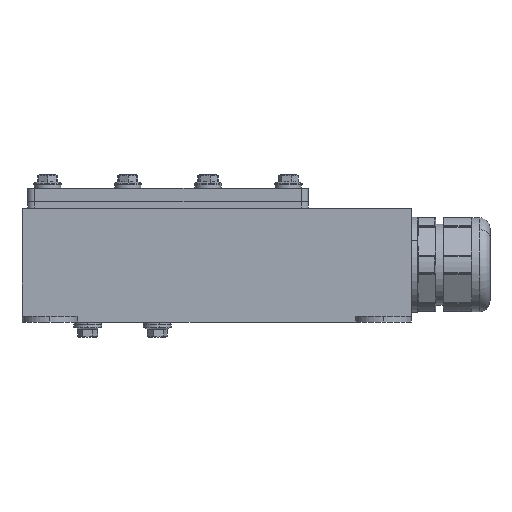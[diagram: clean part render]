
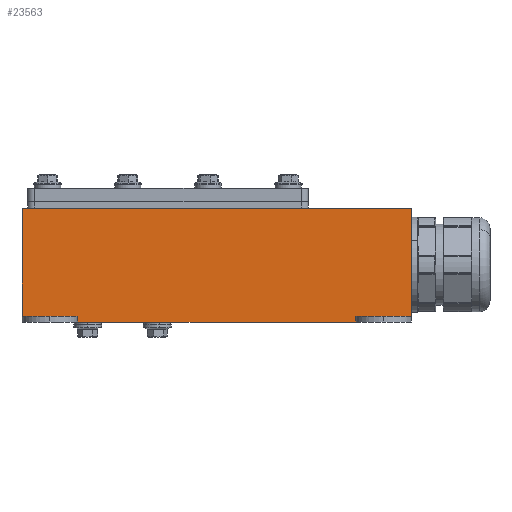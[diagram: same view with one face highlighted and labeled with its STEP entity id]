
A CAD part, left-side view. The second image highlights one B-rep face of the part: STEP entity #23563.
In plain terms, the highlighted planar face has unit normal (-1, 0, 0).
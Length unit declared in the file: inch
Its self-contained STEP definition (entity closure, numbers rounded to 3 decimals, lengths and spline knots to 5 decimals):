
#267 = VECTOR ( 'NONE', #631, 39.37008 ) ;
#277 = EDGE_CURVE ( 'NONE', #16632, #17910, #3181, .T. ) ;
#631 = DIRECTION ( 'NONE',  ( 0., 0., -1. ) ) ;
#709 = DIRECTION ( 'NONE',  ( 0., -1., 0. ) ) ;
#1871 = VERTEX_POINT ( 'NONE', #22637 ) ;
#2079 = LINE ( 'NONE', #20246, #15093 ) ;
#2581 = CARTESIAN_POINT ( 'NONE',  ( -1.85, -3.5, 1.02362 ) ) ;
#3181 = LINE ( 'NONE', #18732, #19479 ) ;
#3347 = ORIENTED_EDGE ( 'NONE', *, *, #13558, .T. ) ;
#3361 = ORIENTED_EDGE ( 'NONE', *, *, #12659, .F. ) ;
#4173 = EDGE_CURVE ( 'NONE', #4608, #21646, #16499, .T. ) ;
#4429 = CARTESIAN_POINT ( 'NONE',  ( -1.85, -3.5, 1.02362 ) ) ;
#4608 = VERTEX_POINT ( 'NONE', #12799 ) ;
#5096 = CARTESIAN_POINT ( 'NONE',  ( -1.85, 2.5, -0.91862 ) ) ;
#5492 = CARTESIAN_POINT ( 'NONE',  ( -1.85, 3.5, 1.02362 ) ) ;
#6708 = LINE ( 'NONE', #20614, #7341 ) ;
#6752 = VECTOR ( 'NONE', #26808, 39.37008 ) ;
#7341 = VECTOR ( 'NONE', #709, 39.37008 ) ;
#7715 = ORIENTED_EDGE ( 'NONE', *, *, #15062, .F. ) ;
#8065 = DIRECTION ( 'NONE',  ( 0., -1., 0. ) ) ;
#8216 = CARTESIAN_POINT ( 'NONE',  ( -1.85, -3.5, -1.02362 ) ) ;
#8258 = EDGE_CURVE ( 'NONE', #9582, #13106, #10943, .T. ) ;
#8459 = CARTESIAN_POINT ( 'NONE',  ( -1.85, -2.5, -0.91862 ) ) ;
#9365 = ORIENTED_EDGE ( 'NONE', *, *, #277, .T. ) ;
#9389 = LINE ( 'NONE', #27125, #267 ) ;
#9582 = VERTEX_POINT ( 'NONE', #5096 ) ;
#10577 = CARTESIAN_POINT ( 'NONE',  ( -1.85, 2.5, -1.02362 ) ) ;
#10625 = ORIENTED_EDGE ( 'NONE', *, *, #12710, .F. ) ;
#10943 = LINE ( 'NONE', #24152, #6752 ) ;
#11418 = CARTESIAN_POINT ( 'NONE',  ( -1.85, -3.5, 1.02362 ) ) ;
#12001 = DIRECTION ( 'NONE',  ( 0., 0., -1. ) ) ;
#12659 = EDGE_CURVE ( 'NONE', #16632, #1871, #2079, .T. ) ;
#12710 = EDGE_CURVE ( 'NONE', #28180, #17910, #9389, .T. ) ;
#12799 = CARTESIAN_POINT ( 'NONE',  ( -1.85, 3.5, 1.02362 ) ) ;
#13106 = VERTEX_POINT ( 'NONE', #10577 ) ;
#13505 = VECTOR ( 'NONE', #12001, 39.37008 ) ;
#13558 = EDGE_CURVE ( 'NONE', #13106, #1871, #28143, .T. ) ;
#14204 = VECTOR ( 'NONE', #8065, 39.37008 ) ;
#15062 = EDGE_CURVE ( 'NONE', #4608, #28180, #15426, .T. ) ;
#15093 = VECTOR ( 'NONE', #15876, 39.37008 ) ;
#15426 = LINE ( 'NONE', #4429, #22190 ) ;
#15876 = DIRECTION ( 'NONE',  ( 0., 0., -1. ) ) ;
#16499 = LINE ( 'NONE', #5492, #13505 ) ;
#16632 = VERTEX_POINT ( 'NONE', #8459 ) ;
#16990 = EDGE_CURVE ( 'NONE', #21646, #9582, #6708, .T. ) ;
#17032 = ORIENTED_EDGE ( 'NONE', *, *, #4173, .T. ) ;
#17910 = VERTEX_POINT ( 'NONE', #24302 ) ;
#18732 = CARTESIAN_POINT ( 'NONE',  ( -1.85, -3.5, -0.91862 ) ) ;
#19479 = VECTOR ( 'NONE', #25761, 39.37008 ) ;
#19714 = PLANE ( 'NONE',  #20474 ) ;
#20156 = DIRECTION ( 'NONE',  ( 1., 0., 0. ) ) ;
#20246 = CARTESIAN_POINT ( 'NONE',  ( -1.85, -2.5, -0.91862 ) ) ;
#20335 = ORIENTED_EDGE ( 'NONE', *, *, #8258, .T. ) ;
#20474 = AXIS2_PLACEMENT_3D ( 'NONE', #2581, #20156, #21896 ) ;
#20614 = CARTESIAN_POINT ( 'NONE',  ( -1.85, 3.5, -0.91862 ) ) ;
#21646 = VERTEX_POINT ( 'NONE', #25260 ) ;
#21896 = DIRECTION ( 'NONE',  ( 0., 0., -1. ) ) ;
#22190 = VECTOR ( 'NONE', #24616, 39.37008 ) ;
#22637 = CARTESIAN_POINT ( 'NONE',  ( -1.85, -2.5, -1.02362 ) ) ;
#23563 = ADVANCED_FACE ( 'NONE', ( #24107 ), #19714, .F. ) ;
#24107 = FACE_OUTER_BOUND ( 'NONE', #26646, .T. ) ;
#24152 = CARTESIAN_POINT ( 'NONE',  ( -1.85, 2.5, -0.91862 ) ) ;
#24302 = CARTESIAN_POINT ( 'NONE',  ( -1.85, -3.5, -0.91862 ) ) ;
#24616 = DIRECTION ( 'NONE',  ( 0., -1., 0. ) ) ;
#25029 = ORIENTED_EDGE ( 'NONE', *, *, #16990, .T. ) ;
#25260 = CARTESIAN_POINT ( 'NONE',  ( -1.85, 3.5, -0.91862 ) ) ;
#25761 = DIRECTION ( 'NONE',  ( 0., -1., 0. ) ) ;
#26646 = EDGE_LOOP ( 'NONE', ( #3347, #3361, #9365, #10625, #7715, #17032, #25029, #20335 ) ) ;
#26808 = DIRECTION ( 'NONE',  ( 0., 0., -1. ) ) ;
#27125 = CARTESIAN_POINT ( 'NONE',  ( -1.85, -3.5, 1.02362 ) ) ;
#28143 = LINE ( 'NONE', #8216, #14204 ) ;
#28180 = VERTEX_POINT ( 'NONE', #11418 ) ;
